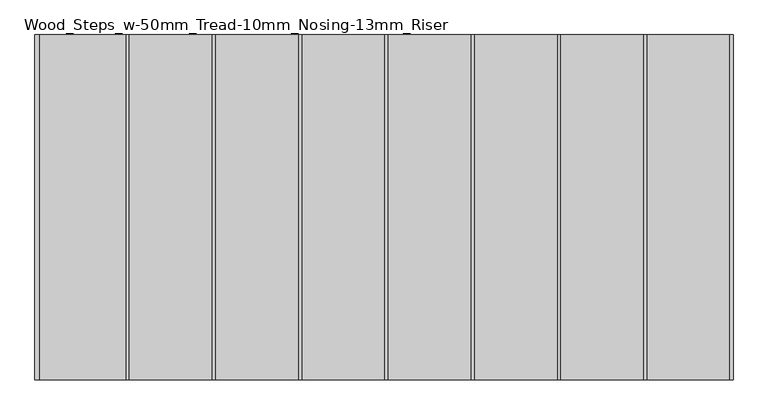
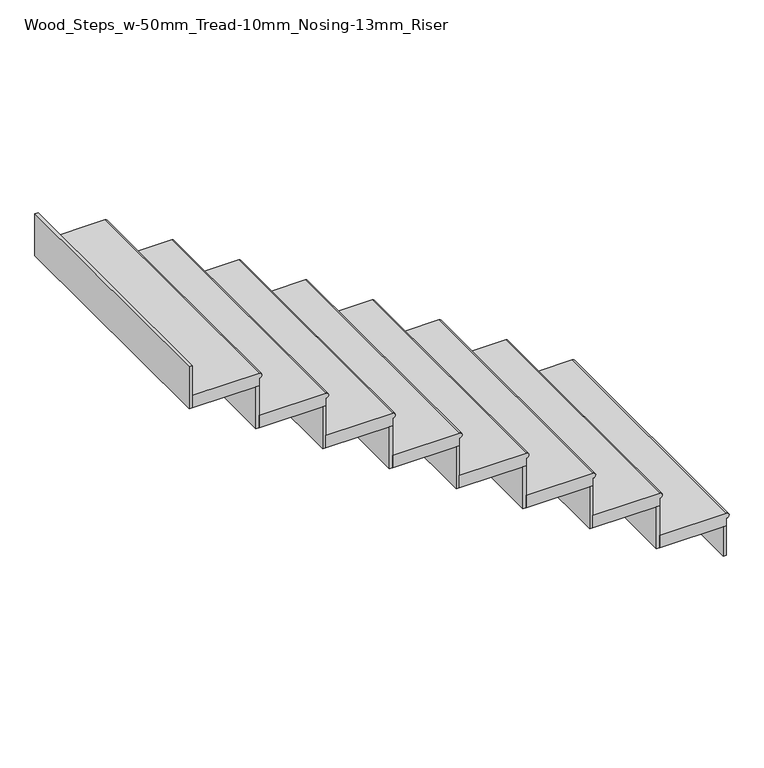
"""IFC4 building model written with IfcOpenShell, lengths in millimetres: stair flight geometry, Wood_Steps_w-50mm_Tread-10mm_Nosing-13mm_Riser."""

from ifc_helpers import new_model, si_unit, frame, origin, place, context, project, spatial, circle_curve, faceted_brep, source, transform, mapped, element, save
from ifc_brep_helpers import plane_surface, cylinder_surface, advanced_brep


def wood_steps_w_50mm_tread_10mm_nosing_13mm_riser_b8e6a5a3(model_context):
    return source(origin(), model_context, "Body", "SolidModel", [
        advanced_brep(
        [(-15670.7705062, -30865.7565305, 2946.6666667), (-15670.7705062, -30865.7565305, 2966.6666667), (-15670.7705062, -31865.7565305, 2966.6666667), (-15670.7705062, -31865.7565305, 2946.6666667), (-15920.7705062, -31865.7565305, 2966.6666667), (-15920.7705062, -30865.7565305, 2966.6666667), (-15670.7705062, -31865.7565305, 2916.6666667), (-15920.7705062, -31865.7565305, 2916.6666667), (-15920.7705062, -30865.7565305, 2916.6666667), (-15670.7705062, -30865.7565305, 2916.6666667)],
        [
            (0, 1, circle_curve(frame((-15670.7705062, -30865.7565305, 2956.6666667), z_axis=(0.0, -1.0, 0.0), x_axis=(-1.0, 0.0, 0.0)), 10.0)),
            (1, 2),
            (2, 3, circle_curve(frame((-15670.7705062, -31865.7565305, 2956.6666667), z_axis=(0.0, 1.0, 0.0), x_axis=(-1.0, 0.0, 0.0)), 10.0)),
            (3, 0),
            (4, 2),
            (1, 5),
            (5, 4),
            (6, 7),
            (7, 8),
            (8, 9),
            (9, 6),
            (4, 7),
            (6, 3),
            (9, 0),
            (8, 5),
        ],
        [
            cylinder_surface(frame((-15670.7705062, -30865.7565305, 2956.6666667), z_axis=(0.0, 1.0, 0.0), x_axis=(-1.0, 0.0, 0.0)), 10.0),
            plane_surface(frame((-15660.7705062, -31865.7565305, 2966.6666667), z_axis=(0.0, 0.0, 1.0), x_axis=(1.0, 0.0, 0.0))),
            plane_surface(frame((-15660.7705062, -31865.7565305, 2916.6666667), z_axis=(0.0, 0.0, -1.0), x_axis=(-1.0, 0.0, 0.0))),
            plane_surface(frame((-15920.7705062, -31865.7565305, 2966.6666667), z_axis=(0.0, -1.0, 0.0), x_axis=(0.0, 0.0, -1.0))),
            plane_surface(frame((-15670.7705062, -31865.7565305, 2966.6666667), z_axis=(1.0, 0.0, 0.0), x_axis=(0.0, 0.0, -1.0))),
            plane_surface(frame((-15670.7705062, -30865.7565305, 2966.6666667), z_axis=(0.0, 1.0, 0.0), x_axis=(0.0, 0.0, -1.0))),
            plane_surface(frame((-15920.7705062, -30865.7565305, 2966.6666667), z_axis=(-1.0, 0.0, 0.0), x_axis=(0.0, 0.0, -1.0))),
        ],
        [
            (0, [[1, 2, 3, 4]]),
            (1, [[5, -2, 6, 7]]),
            (2, [[8, 9, 10, 11]]),
            (3, [[-5, 12, -8, 13, -3]]),
            (4, [[-11, 14, -4, -13]]),
            (5, [[-6, -1, -14, -10, 15]]),
            (6, [[-7, -15, -9, -12]]),
        ],
    ),
        faceted_brep([(-15670.7705062, -30865.7565305, 2916.6666667), (-15670.7705062, -30865.7565305, 2800.0), (-15683.2705062, -30865.7565305, 2800.0), (-15683.2705062, -30865.7565305, 2916.6666667), (-15670.7705062, -31865.7565305, 2916.6666667), (-15683.2705062, -31865.7565305, 2916.6666667), (-15683.2705062, -31865.7565305, 2800.0), (-15670.7705062, -31865.7565305, 2800.0)], [[[0, 1, 2, 3]], [[4, 5, 6, 7]], [[1, 0, 4, 7]], [[2, 1, 7, 6]], [[3, 2, 6, 5]], [[0, 3, 5, 4]]]),
        faceted_brep([(-15920.7705062, -30865.7565305, 3083.3333333), (-15920.7705062, -30865.7565305, 2916.6666667), (-15933.2705062, -30865.7565305, 2916.6666667), (-15933.2705062, -30865.7565305, 3083.3333333), (-15920.7705062, -31865.7565305, 3083.3333333), (-15933.2705062, -31865.7565305, 3083.3333333), (-15933.2705062, -31865.7565305, 2916.6666667), (-15920.7705062, -31865.7565305, 2916.6666667)], [[[0, 1, 2, 3]], [[4, 5, 6, 7]], [[1, 0, 4, 7]], [[2, 1, 7, 6]], [[3, 2, 6, 5]], [[0, 3, 5, 4]]]),
        advanced_brep(
        [(-16170.7705062, -31865.7565305, 3133.3333333), (-15920.7705062, -31865.7565305, 3133.3333333), (-15920.7705062, -30865.7565305, 3133.3333333), (-16170.7705062, -30865.7565305, 3133.3333333), (-15920.7705062, -31865.7565305, 3083.3333333), (-16170.7705062, -31865.7565305, 3083.3333333), (-16170.7705062, -30865.7565305, 3083.3333333), (-15920.7705062, -30865.7565305, 3083.3333333), (-15920.7705062, -31865.7565305, 3113.3333333), (-15920.7705062, -30865.7565305, 3113.3333333)],
        [
            (0, 1),
            (1, 2),
            (2, 3),
            (3, 0),
            (4, 5),
            (5, 6),
            (6, 7),
            (7, 4),
            (0, 5),
            (4, 8),
            (8, 1, circle_curve(frame((-15920.7705062, -31865.7565305, 3123.3333333), z_axis=(0.0, -1.0, 0.0), x_axis=(-1.0, 0.0, 0.0)), 10.0)),
            (7, 9),
            (9, 8),
            (2, 9, circle_curve(frame((-15920.7705062, -30865.7565305, 3123.3333333), z_axis=(0.0, 1.0, 0.0), x_axis=(-1.0, 0.0, 0.0)), 10.0)),
            (6, 3),
        ],
        [
            plane_surface(frame((-15660.7705062, -31865.7565305, 3133.3333333), z_axis=(0.0, 0.0, 1.0), x_axis=(1.0, 0.0, 0.0))),
            plane_surface(frame((-15660.7705062, -31865.7565305, 3083.3333333), z_axis=(0.0, 0.0, -1.0), x_axis=(-1.0, 0.0, 0.0))),
            plane_surface(frame((-16170.7705062, -31865.7565305, 3133.3333333), z_axis=(0.0, -1.0, 0.0), x_axis=(0.0, 0.0, -1.0))),
            plane_surface(frame((-15920.7705062, -31865.7565305, 3133.3333333), z_axis=(1.0, 0.0, 0.0), x_axis=(0.0, 0.0, -1.0))),
            plane_surface(frame((-15920.7705062, -30865.7565305, 3133.3333333), z_axis=(0.0, 1.0, 0.0), x_axis=(0.0, 0.0, -1.0))),
            plane_surface(frame((-16170.7705062, -30865.7565305, 3133.3333333), z_axis=(-1.0, 0.0, 0.0), x_axis=(0.0, 0.0, -1.0))),
            cylinder_surface(frame((-15920.7705062, -30865.7565305, 3123.3333333), z_axis=(0.0, 1.0, 0.0), x_axis=(-1.0, 0.0, 0.0)), 10.0),
        ],
        [
            (0, [[1, 2, 3, 4]]),
            (1, [[5, 6, 7, 8]]),
            (2, [[-1, 9, -5, 10, 11]]),
            (3, [[-8, 12, 13, -10]]),
            (4, [[-3, 14, -12, -7, 15]]),
            (5, [[-4, -15, -6, -9]]),
            (6, [[-14, -2, -11, -13]]),
        ],
    ),
        faceted_brep([(-16170.7705062, -30865.7565305, 3250.0), (-16170.7705062, -30865.7565305, 3083.3333333), (-16183.2705062, -30865.7565305, 3083.3333333), (-16183.2705062, -30865.7565305, 3250.0), (-16170.7705062, -31865.7565305, 3250.0), (-16183.2705062, -31865.7565305, 3250.0), (-16183.2705062, -31865.7565305, 3083.3333333), (-16170.7705062, -31865.7565305, 3083.3333333)], [[[0, 1, 2, 3]], [[4, 5, 6, 7]], [[1, 0, 4, 7]], [[2, 1, 7, 6]], [[3, 2, 6, 5]], [[0, 3, 5, 4]]]),
        advanced_brep(
        [(-16420.7705062, -31865.7565305, 3300.0), (-16170.7705062, -31865.7565305, 3300.0), (-16170.7705062, -30865.7565305, 3300.0), (-16420.7705062, -30865.7565305, 3300.0), (-16170.7705062, -31865.7565305, 3250.0), (-16420.7705062, -31865.7565305, 3250.0), (-16420.7705062, -30865.7565305, 3250.0), (-16170.7705062, -30865.7565305, 3250.0), (-16170.7705062, -31865.7565305, 3280.0), (-16170.7705062, -30865.7565305, 3280.0)],
        [
            (0, 1),
            (1, 2),
            (2, 3),
            (3, 0),
            (4, 5),
            (5, 6),
            (6, 7),
            (7, 4),
            (0, 5),
            (4, 8),
            (8, 1, circle_curve(frame((-16170.7705062, -31865.7565305, 3290.0), z_axis=(0.0, -1.0, 0.0), x_axis=(-1.0, 0.0, 0.0)), 10.0)),
            (7, 9),
            (9, 8),
            (2, 9, circle_curve(frame((-16170.7705062, -30865.7565305, 3290.0), z_axis=(0.0, 1.0, 0.0), x_axis=(-1.0, 0.0, 0.0)), 10.0)),
            (6, 3),
        ],
        [
            plane_surface(frame((-15910.7705062, -31865.7565305, 3300.0), z_axis=(0.0, 0.0, 1.0), x_axis=(1.0, 0.0, 0.0))),
            plane_surface(frame((-15910.7705062, -31865.7565305, 3250.0), z_axis=(0.0, 0.0, -1.0), x_axis=(-1.0, 0.0, 0.0))),
            plane_surface(frame((-16420.7705062, -31865.7565305, 3300.0), z_axis=(0.0, -1.0, 0.0), x_axis=(0.0, 0.0, -1.0))),
            plane_surface(frame((-16170.7705062, -31865.7565305, 3300.0), z_axis=(1.0, 0.0, 0.0), x_axis=(0.0, 0.0, -1.0))),
            plane_surface(frame((-16170.7705062, -30865.7565305, 3300.0), z_axis=(0.0, 1.0, 0.0), x_axis=(0.0, 0.0, -1.0))),
            plane_surface(frame((-16420.7705062, -30865.7565305, 3300.0), z_axis=(-1.0, 0.0, 0.0), x_axis=(0.0, 0.0, -1.0))),
            cylinder_surface(frame((-16170.7705062, -30865.7565305, 3290.0), z_axis=(0.0, 1.0, 0.0), x_axis=(-1.0, 0.0, 0.0)), 10.0),
        ],
        [
            (0, [[1, 2, 3, 4]]),
            (1, [[5, 6, 7, 8]]),
            (2, [[-1, 9, -5, 10, 11]]),
            (3, [[-8, 12, 13, -10]]),
            (4, [[-3, 14, -12, -7, 15]]),
            (5, [[-4, -15, -6, -9]]),
            (6, [[-14, -2, -11, -13]]),
        ],
    ),
        faceted_brep([(-16420.7705062, -30865.7565305, 3416.6666667), (-16420.7705062, -30865.7565305, 3250.0), (-16433.2705062, -30865.7565305, 3250.0), (-16433.2705062, -30865.7565305, 3416.6666667), (-16420.7705062, -31865.7565305, 3416.6666667), (-16433.2705062, -31865.7565305, 3416.6666667), (-16433.2705062, -31865.7565305, 3250.0), (-16420.7705062, -31865.7565305, 3250.0)], [[[0, 1, 2, 3]], [[4, 5, 6, 7]], [[1, 0, 4, 7]], [[2, 1, 7, 6]], [[3, 2, 6, 5]], [[0, 3, 5, 4]]]),
        advanced_brep(
        [(-16670.7705062, -31865.7565305, 3466.6666667), (-16420.7705062, -31865.7565305, 3466.6666667), (-16420.7705062, -30865.7565305, 3466.6666667), (-16670.7705062, -30865.7565305, 3466.6666667), (-16420.7705062, -31865.7565305, 3416.6666667), (-16670.7705062, -31865.7565305, 3416.6666667), (-16670.7705062, -30865.7565305, 3416.6666667), (-16420.7705062, -30865.7565305, 3416.6666667), (-16420.7705062, -31865.7565305, 3446.6666667), (-16420.7705062, -30865.7565305, 3446.6666667)],
        [
            (0, 1),
            (1, 2),
            (2, 3),
            (3, 0),
            (4, 5),
            (5, 6),
            (6, 7),
            (7, 4),
            (0, 5),
            (4, 8),
            (8, 1, circle_curve(frame((-16420.7705062, -31865.7565305, 3456.6666667), z_axis=(0.0, -1.0, 0.0), x_axis=(-1.0, 0.0, 0.0)), 10.0)),
            (7, 9),
            (9, 8),
            (2, 9, circle_curve(frame((-16420.7705062, -30865.7565305, 3456.6666667), z_axis=(0.0, 1.0, 0.0), x_axis=(-1.0, 0.0, 0.0)), 10.0)),
            (6, 3),
        ],
        [
            plane_surface(frame((-16160.7705062, -31865.7565305, 3466.6666667), z_axis=(0.0, 0.0, 1.0), x_axis=(1.0, 0.0, 0.0))),
            plane_surface(frame((-16160.7705062, -31865.7565305, 3416.6666667), z_axis=(0.0, 0.0, -1.0), x_axis=(-1.0, 0.0, 0.0))),
            plane_surface(frame((-16670.7705062, -31865.7565305, 3466.6666667), z_axis=(0.0, -1.0, 0.0), x_axis=(0.0, 0.0, -1.0))),
            plane_surface(frame((-16420.7705062, -31865.7565305, 3466.6666667), z_axis=(1.0, 0.0, 0.0), x_axis=(0.0, 0.0, -1.0))),
            plane_surface(frame((-16420.7705062, -30865.7565305, 3466.6666667), z_axis=(0.0, 1.0, 0.0), x_axis=(0.0, 0.0, -1.0))),
            plane_surface(frame((-16670.7705062, -30865.7565305, 3466.6666667), z_axis=(-1.0, 0.0, 0.0), x_axis=(0.0, 0.0, -1.0))),
            cylinder_surface(frame((-16420.7705062, -30865.7565305, 3456.6666667), z_axis=(0.0, 1.0, 0.0), x_axis=(-1.0, 0.0, 0.0)), 10.0),
        ],
        [
            (0, [[1, 2, 3, 4]]),
            (1, [[5, 6, 7, 8]]),
            (2, [[-1, 9, -5, 10, 11]]),
            (3, [[-8, 12, 13, -10]]),
            (4, [[-3, 14, -12, -7, 15]]),
            (5, [[-4, -15, -6, -9]]),
            (6, [[-14, -2, -11, -13]]),
        ],
    ),
        faceted_brep([(-16670.7705062, -30865.7565305, 3583.3333333), (-16670.7705062, -30865.7565305, 3416.6666667), (-16683.2705062, -30865.7565305, 3416.6666667), (-16683.2705062, -30865.7565305, 3583.3333333), (-16670.7705062, -31865.7565305, 3583.3333333), (-16683.2705062, -31865.7565305, 3583.3333333), (-16683.2705062, -31865.7565305, 3416.6666667), (-16670.7705062, -31865.7565305, 3416.6666667)], [[[0, 1, 2, 3]], [[4, 5, 6, 7]], [[1, 0, 4, 7]], [[2, 1, 7, 6]], [[3, 2, 6, 5]], [[0, 3, 5, 4]]]),
        advanced_brep(
        [(-16920.7705062, -31865.7565305, 3633.3333333), (-16670.7705062, -31865.7565305, 3633.3333333), (-16670.7705062, -30865.7565305, 3633.3333333), (-16920.7705062, -30865.7565305, 3633.3333333), (-16670.7705062, -31865.7565305, 3583.3333333), (-16920.7705062, -31865.7565305, 3583.3333333), (-16920.7705062, -30865.7565305, 3583.3333333), (-16670.7705062, -30865.7565305, 3583.3333333), (-16670.7705062, -31865.7565305, 3613.3333333), (-16670.7705062, -30865.7565305, 3613.3333333)],
        [
            (0, 1),
            (1, 2),
            (2, 3),
            (3, 0),
            (4, 5),
            (5, 6),
            (6, 7),
            (7, 4),
            (0, 5),
            (4, 8),
            (8, 1, circle_curve(frame((-16670.7705062, -31865.7565305, 3623.3333333), z_axis=(0.0, -1.0, 0.0), x_axis=(-1.0, 0.0, 0.0)), 10.0)),
            (7, 9),
            (9, 8),
            (2, 9, circle_curve(frame((-16670.7705062, -30865.7565305, 3623.3333333), z_axis=(0.0, 1.0, 0.0), x_axis=(-1.0, 0.0, 0.0)), 10.0)),
            (6, 3),
        ],
        [
            plane_surface(frame((-16410.7705062, -31865.7565305, 3633.3333333), z_axis=(0.0, 0.0, 1.0), x_axis=(1.0, 0.0, 0.0))),
            plane_surface(frame((-16410.7705062, -31865.7565305, 3583.3333333), z_axis=(0.0, 0.0, -1.0), x_axis=(-1.0, 0.0, 0.0))),
            plane_surface(frame((-16920.7705062, -31865.7565305, 3633.3333333), z_axis=(0.0, -1.0, 0.0), x_axis=(0.0, 0.0, -1.0))),
            plane_surface(frame((-16670.7705062, -31865.7565305, 3633.3333333), z_axis=(1.0, 0.0, 0.0), x_axis=(0.0, 0.0, -1.0))),
            plane_surface(frame((-16670.7705062, -30865.7565305, 3633.3333333), z_axis=(0.0, 1.0, 0.0), x_axis=(0.0, 0.0, -1.0))),
            plane_surface(frame((-16920.7705062, -30865.7565305, 3633.3333333), z_axis=(-1.0, 0.0, 0.0), x_axis=(0.0, 0.0, -1.0))),
            cylinder_surface(frame((-16670.7705062, -30865.7565305, 3623.3333333), z_axis=(0.0, 1.0, 0.0), x_axis=(-1.0, 0.0, 0.0)), 10.0),
        ],
        [
            (0, [[1, 2, 3, 4]]),
            (1, [[5, 6, 7, 8]]),
            (2, [[-1, 9, -5, 10, 11]]),
            (3, [[-8, 12, 13, -10]]),
            (4, [[-3, 14, -12, -7, 15]]),
            (5, [[-4, -15, -6, -9]]),
            (6, [[-14, -2, -11, -13]]),
        ],
    ),
        faceted_brep([(-16920.7705062, -30865.7565305, 3750.0), (-16920.7705062, -30865.7565305, 3583.3333333), (-16933.2705062, -30865.7565305, 3583.3333333), (-16933.2705062, -30865.7565305, 3750.0), (-16920.7705062, -31865.7565305, 3750.0), (-16933.2705062, -31865.7565305, 3750.0), (-16933.2705062, -31865.7565305, 3583.3333333), (-16920.7705062, -31865.7565305, 3583.3333333)], [[[0, 1, 2, 3]], [[4, 5, 6, 7]], [[1, 0, 4, 7]], [[2, 1, 7, 6]], [[3, 2, 6, 5]], [[0, 3, 5, 4]]]),
        advanced_brep(
        [(-17170.7705062, -31865.7565305, 3800.0), (-16920.7705062, -31865.7565305, 3800.0), (-16920.7705062, -30865.7565305, 3800.0), (-17170.7705062, -30865.7565305, 3800.0), (-16920.7705062, -31865.7565305, 3750.0), (-17170.7705062, -31865.7565305, 3750.0), (-17170.7705062, -30865.7565305, 3750.0), (-16920.7705062, -30865.7565305, 3750.0), (-16920.7705062, -31865.7565305, 3780.0), (-16920.7705062, -30865.7565305, 3780.0)],
        [
            (0, 1),
            (1, 2),
            (2, 3),
            (3, 0),
            (4, 5),
            (5, 6),
            (6, 7),
            (7, 4),
            (0, 5),
            (4, 8),
            (8, 1, circle_curve(frame((-16920.7705062, -31865.7565305, 3790.0), z_axis=(0.0, -1.0, 0.0), x_axis=(-1.0, 0.0, 0.0)), 10.0)),
            (7, 9),
            (9, 8),
            (2, 9, circle_curve(frame((-16920.7705062, -30865.7565305, 3790.0), z_axis=(0.0, 1.0, 0.0), x_axis=(-1.0, 0.0, 0.0)), 10.0)),
            (6, 3),
        ],
        [
            plane_surface(frame((-16660.7705062, -31865.7565305, 3800.0), z_axis=(0.0, 0.0, 1.0), x_axis=(1.0, 0.0, 0.0))),
            plane_surface(frame((-16660.7705062, -31865.7565305, 3750.0), z_axis=(0.0, 0.0, -1.0), x_axis=(-1.0, 0.0, 0.0))),
            plane_surface(frame((-17170.7705062, -31865.7565305, 3800.0), z_axis=(0.0, -1.0, 0.0), x_axis=(0.0, 0.0, -1.0))),
            plane_surface(frame((-16920.7705062, -31865.7565305, 3800.0), z_axis=(1.0, 0.0, 0.0), x_axis=(0.0, 0.0, -1.0))),
            plane_surface(frame((-16920.7705062, -30865.7565305, 3800.0), z_axis=(0.0, 1.0, 0.0), x_axis=(0.0, 0.0, -1.0))),
            plane_surface(frame((-17170.7705062, -30865.7565305, 3800.0), z_axis=(-1.0, 0.0, 0.0), x_axis=(0.0, 0.0, -1.0))),
            cylinder_surface(frame((-16920.7705062, -30865.7565305, 3790.0), z_axis=(0.0, 1.0, 0.0), x_axis=(-1.0, 0.0, 0.0)), 10.0),
        ],
        [
            (0, [[1, 2, 3, 4]]),
            (1, [[5, 6, 7, 8]]),
            (2, [[-1, 9, -5, 10, 11]]),
            (3, [[-8, 12, 13, -10]]),
            (4, [[-3, 14, -12, -7, 15]]),
            (5, [[-4, -15, -6, -9]]),
            (6, [[-14, -2, -11, -13]]),
        ],
    ),
        faceted_brep([(-17170.7705062, -30865.7565305, 3916.6666667), (-17170.7705062, -30865.7565305, 3750.0), (-17183.2705062, -30865.7565305, 3750.0), (-17183.2705062, -30865.7565305, 3916.6666667), (-17170.7705062, -31865.7565305, 3916.6666667), (-17183.2705062, -31865.7565305, 3916.6666667), (-17183.2705062, -31865.7565305, 3750.0), (-17170.7705062, -31865.7565305, 3750.0)], [[[0, 1, 2, 3]], [[4, 5, 6, 7]], [[1, 0, 4, 7]], [[2, 1, 7, 6]], [[3, 2, 6, 5]], [[0, 3, 5, 4]]]),
        advanced_brep(
        [(-17420.7705062, -31865.7565305, 3966.6666667), (-17170.7705062, -31865.7565305, 3966.6666667), (-17170.7705062, -30865.7565305, 3966.6666667), (-17420.7705062, -30865.7565305, 3966.6666667), (-17170.7705062, -31865.7565305, 3916.6666667), (-17420.7705062, -31865.7565305, 3916.6666667), (-17420.7705062, -30865.7565305, 3916.6666667), (-17170.7705062, -30865.7565305, 3916.6666667), (-17170.7705062, -31865.7565305, 3946.6666667), (-17170.7705062, -30865.7565305, 3946.6666667)],
        [
            (0, 1),
            (1, 2),
            (2, 3),
            (3, 0),
            (4, 5),
            (5, 6),
            (6, 7),
            (7, 4),
            (0, 5),
            (4, 8),
            (8, 1, circle_curve(frame((-17170.7705062, -31865.7565305, 3956.6666667), z_axis=(0.0, -1.0, 0.0), x_axis=(-1.0, 0.0, 0.0)), 10.0)),
            (7, 9),
            (9, 8),
            (2, 9, circle_curve(frame((-17170.7705062, -30865.7565305, 3956.6666667), z_axis=(0.0, 1.0, 0.0), x_axis=(-1.0, 0.0, 0.0)), 10.0)),
            (6, 3),
        ],
        [
            plane_surface(frame((-16910.7705062, -31865.7565305, 3966.6666667), z_axis=(0.0, 0.0, 1.0), x_axis=(1.0, 0.0, 0.0))),
            plane_surface(frame((-16910.7705062, -31865.7565305, 3916.6666667), z_axis=(0.0, 0.0, -1.0), x_axis=(-1.0, 0.0, 0.0))),
            plane_surface(frame((-17420.7705062, -31865.7565305, 3966.6666667), z_axis=(0.0, -1.0, 0.0), x_axis=(0.0, 0.0, -1.0))),
            plane_surface(frame((-17170.7705062, -31865.7565305, 3966.6666667), z_axis=(1.0, 0.0, 0.0), x_axis=(0.0, 0.0, -1.0))),
            plane_surface(frame((-17170.7705062, -30865.7565305, 3966.6666667), z_axis=(0.0, 1.0, 0.0), x_axis=(0.0, 0.0, -1.0))),
            plane_surface(frame((-17420.7705062, -30865.7565305, 3966.6666667), z_axis=(-1.0, 0.0, 0.0), x_axis=(0.0, 0.0, -1.0))),
            cylinder_surface(frame((-17170.7705062, -30865.7565305, 3956.6666667), z_axis=(0.0, 1.0, 0.0), x_axis=(-1.0, 0.0, 0.0)), 10.0),
        ],
        [
            (0, [[1, 2, 3, 4]]),
            (1, [[5, 6, 7, 8]]),
            (2, [[-1, 9, -5, 10, 11]]),
            (3, [[-8, 12, 13, -10]]),
            (4, [[-3, 14, -12, -7, 15]]),
            (5, [[-4, -15, -6, -9]]),
            (6, [[-14, -2, -11, -13]]),
        ],
    ),
        faceted_brep([(-17670.7705062, -30865.7565305, 4250.0), (-17670.7705062, -30865.7565305, 4083.3333333), (-17683.2705062, -30865.7565305, 4083.3333333), (-17683.2705062, -30865.7565305, 4250.0), (-17670.7705062, -31865.7565305, 4250.0), (-17683.2705062, -31865.7565305, 4250.0), (-17683.2705062, -31865.7565305, 4083.3333333), (-17670.7705062, -31865.7565305, 4083.3333333)], [[[0, 1, 2, 3]], [[4, 5, 6, 7]], [[1, 0, 4, 7]], [[2, 1, 7, 6]], [[3, 2, 6, 5]], [[0, 3, 5, 4]]]),
        faceted_brep([(-17420.7705062, -30865.7565305, 4083.3333333), (-17420.7705062, -30865.7565305, 3916.6666667), (-17433.2705062, -30865.7565305, 3916.6666667), (-17433.2705062, -30865.7565305, 4083.3333333), (-17420.7705062, -31865.7565305, 4083.3333333), (-17433.2705062, -31865.7565305, 4083.3333333), (-17433.2705062, -31865.7565305, 3916.6666667), (-17420.7705062, -31865.7565305, 3916.6666667)], [[[0, 1, 2, 3]], [[4, 5, 6, 7]], [[1, 0, 4, 7]], [[2, 1, 7, 6]], [[3, 2, 6, 5]], [[0, 3, 5, 4]]]),
        advanced_brep(
        [(-17670.7705062, -31865.7565305, 4133.3333333), (-17420.7705062, -31865.7565305, 4133.3333333), (-17420.7705062, -30865.7565305, 4133.3333333), (-17660.7705062, -30865.7565305, 4133.3333333), (-17670.7705062, -30865.7565305, 4133.3333333), (-17420.7705062, -31865.7565305, 4083.3333333), (-17670.7705062, -31865.7565305, 4083.3333333), (-17670.7705062, -30865.7565305, 4083.3333333), (-17660.7705062, -30865.7565305, 4083.3333333), (-17420.7705062, -30865.7565305, 4083.3333333), (-17420.7705062, -31865.7565305, 4113.3333333), (-17420.7705062, -30865.7565305, 4113.3333333)],
        [
            (0, 1),
            (1, 2),
            (2, 3),
            (3, 4),
            (4, 0),
            (5, 6),
            (6, 7),
            (7, 8),
            (8, 9),
            (9, 5),
            (0, 6),
            (5, 10),
            (10, 1, circle_curve(frame((-17420.7705062, -31865.7565305, 4123.3333333), z_axis=(0.0, -1.0, 0.0), x_axis=(-1.0, 0.0, 0.0)), 10.0)),
            (9, 11),
            (11, 10),
            (2, 11, circle_curve(frame((-17420.7705062, -30865.7565305, 4123.3333333), z_axis=(0.0, 1.0, 0.0), x_axis=(-1.0, 0.0, 0.0)), 10.0)),
            (8, 3),
            (7, 4),
        ],
        [
            plane_surface(frame((-15660.7705062, -31865.7565305, 4133.3333333), z_axis=(0.0, 0.0, 1.0), x_axis=(1.0, 0.0, 0.0))),
            plane_surface(frame((-15660.7705062, -31865.7565305, 4083.3333333), z_axis=(0.0, 0.0, -1.0), x_axis=(-1.0, 0.0, 0.0))),
            plane_surface(frame((-17670.7705062, -31865.7565305, 4133.3333333), z_axis=(0.0, -1.0, 0.0), x_axis=(0.0, 0.0, -1.0))),
            plane_surface(frame((-17420.7705062, -31865.7565305, 4133.3333333), z_axis=(1.0, 0.0, 0.0), x_axis=(0.0, 0.0, -1.0))),
            plane_surface(frame((-17420.7705062, -30865.7565305, 4133.3333333), z_axis=(0.0, 1.0, 0.0), x_axis=(0.0, 0.0, -1.0))),
            plane_surface(frame((-17660.7705062, -30865.7565305, 4133.3333333), z_axis=(0.0, 1.0, 0.0), x_axis=(0.0, 0.0, -1.0))),
            plane_surface(frame((-17670.7705062, -30865.7565305, 4133.3333333), z_axis=(-1.0, 0.0, 0.0), x_axis=(0.0, 0.0, -1.0))),
            cylinder_surface(frame((-17420.7705062, -30865.7565305, 4123.3333333), z_axis=(0.0, 1.0, 0.0), x_axis=(-1.0, 0.0, 0.0)), 10.0),
        ],
        [
            (0, [[1, 2, 3, 4, 5]]),
            (1, [[6, 7, 8, 9, 10]]),
            (2, [[-1, 11, -6, 12, 13]]),
            (3, [[-10, 14, 15, -12]]),
            (4, [[-3, 16, -14, -9, 17]]),
            (5, [[-4, -17, -8, 18]]),
            (6, [[-5, -18, -7, -11]]),
            (7, [[-16, -2, -13, -15]]),
        ],
    ),
    ])


if __name__ == "__main__":
    model = new_model("IFC4")
    model_context = context("Model", 3, world=origin())
    ifc_project = project(units=[si_unit("LENGTHUNIT", "METRE", prefix="MILLI")], contexts=[model_context])
    site = spatial("IfcSite", under=ifc_project)
    building = spatial("IfcBuilding", under=site)
    placement = place(None, origin())
    wood_steps_w_50mm_tread_10mm_nosing_13mm_riser_shape = wood_steps_w_50mm_tread_10mm_nosing_13mm_riser_b8e6a5a3(model_context)
    element("IfcStairFlight", 1, ObjectType="Wood_Steps_w-50mm_Tread-10mm_Nosing-13mm_Riser", at=placement, inside=building, context=model_context, shape_type="MappedRepresentation", body=[
        mapped(wood_steps_w_50mm_tread_10mm_nosing_13mm_riser_shape, transform((0.0, 0.0, 0.0), x_axis=(1.0, 0.0, 0.0), y_axis=(0.0, 1.0, 0.0), z_axis=(0.0, 0.0, 1.0))),
    ])
    save(model, "model.ifc")
